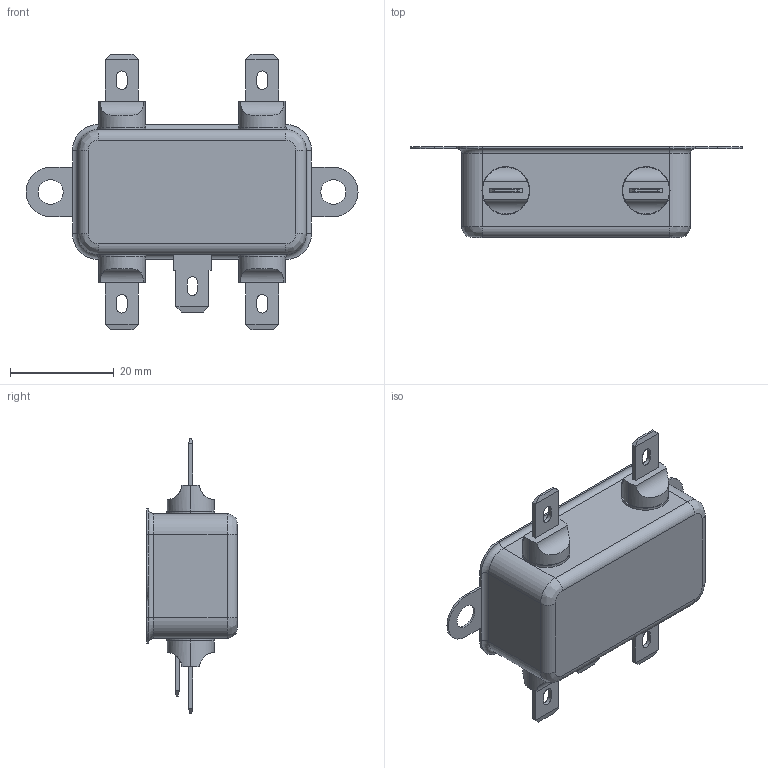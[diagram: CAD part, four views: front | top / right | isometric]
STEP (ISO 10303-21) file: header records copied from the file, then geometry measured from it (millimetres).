
FILE_DESCRIPTION (( 'STEP AP214' ), '1' );
FILE_NAME ('FHSMMXXX1FR.STEP', '2018-12-18T04:32:33', ( 'Kenny' ), ( '' ), 'SwSTEP 2.0', 'SolidWorks 2018', '' );
FILE_SCHEMA (( 'AUTOMOTIVE_DESIGN' ));
Length unit declared in the file: millimetre
Products named in the file (1): FHSMMXXX1FR
Bounding box: 63.9 x 17.5 x 53 mm (x, y, z)
Volume: 3674.5 mm3; surface area: 11723.6 mm2
Topology: 11 solids, 11 shells, 520 faces, 1306 edges, 814 vertices
Faces by surface type: plane 313, cylinder 167, bspline 24, torus 16
Entity records: 22246 total; most frequent: CARTESIAN_POINT 3737, DIRECTION 2648, ORIENTED_EDGE 2612, EDGE_CURVE 1306, LINE 926, VECTOR 926, AXIS2_PLACEMENT_3D 861, VERTEX_POINT 814
